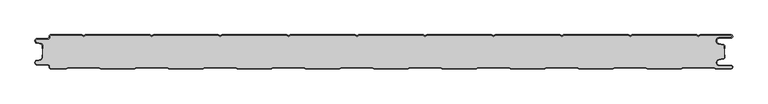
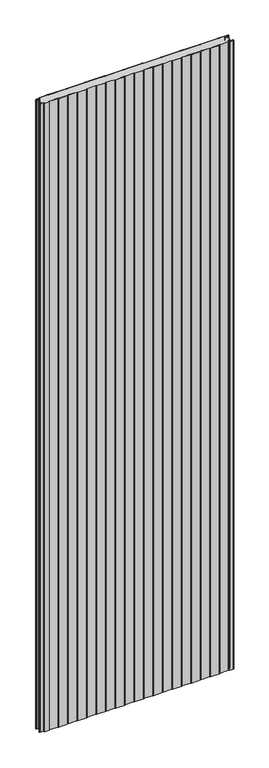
"""IFC4 building model written with IfcOpenShell, lengths in millimetres: plate geometry, PMH_Curtain-PaneL-Standard : ACH_PMH_Stone-wool-Panel_50M."""

import ifcopenshell
import ifcopenshell.guid

model = None  # the IFC model being written
_history = None  # IfcOwnerHistory: only IFC2X3 demands one
_inside = {}  # id of a spatial element -> (the spatial element, [elements in it])
_under = {}  # id of a project, library or spatial element -> (it, [spatial elements below it])
_declared = {}  # id of a project -> (the project, [libraries it declares])
_typed = {}  # id of a type object -> (the type object, [elements of that type])
_made_of = {}  # id of a material, layer set ... -> (it, [elements and type objects made of it])


def new_model(schema):
    """Start an empty IFC model of exactly this schema.

    Asked for "IFC4X3", IfcOpenShell would pick the latest addendum, in which some entities
    have other attributes; the version numbers below select the first issue.
    IFC2X3 requires an IfcOwnerHistory on every rooted entity: one is made here for all.
    """
    global model, _history
    if schema == "IFC4X3":
        model = ifcopenshell.file(schema_version=(4, 3, 0, 0))
    else:
        model = ifcopenshell.file(schema=schema)
    _inside.clear()
    _under.clear()
    _declared.clear()
    _typed.clear()
    _made_of.clear()
    _history = None
    if model.schema == "IFC2X3":
        org = make("IfcOrganization", Name="unknown")
        user = make(
            "IfcPersonAndOrganization",
            ThePerson=make("IfcPerson", FamilyName="unknown"),
            TheOrganization=org,
        )
        app = make(
            "IfcApplication",
            ApplicationDeveloper=org,
            Version="unknown",
            ApplicationFullName="unknown",
            ApplicationIdentifier="unknown",
        )
        _history = make(
            "IfcOwnerHistory",
            OwningUser=user,
            OwningApplication=app,
            ChangeAction="ADDED",
            CreationDate=0,
        )
    return model


def make(cls, **values):
    """One entity of the class cls with the attributes given. An attribute that is None is left unset."""
    return model.create_entity(
        cls, **{name: value for name, value in values.items() if value is not None}
    )


def rooted(cls, **values):
    """An entity with a GlobalId (a new one), such as an element, a storey or a relation."""
    return make(cls, GlobalId=ifcopenshell.guid.new(), OwnerHistory=_history, **values)


def si_unit(unit_type, name, prefix=None):
    """IfcSIUnit, for example si_unit("LENGTHUNIT", "METRE", prefix="MILLI")."""
    return make("IfcSIUnit", UnitType=unit_type, Prefix=prefix, Name=name)


def assignment(units):
    """IfcUnitAssignment: the units of a project."""
    return None if units is None else make("IfcUnitAssignment", Units=units)


def point(xyz):
    """IfcCartesianPoint."""
    return None if xyz is None else make("IfcCartesianPoint", Coordinates=xyz)


def direction(xyz):
    """IfcDirection."""
    return None if xyz is None else make("IfcDirection", DirectionRatios=xyz)


def frame(location, z_axis=None, x_axis=None):
    """IfcAxis2Placement3D, a coordinate frame: its origin and axes. An axis left out is left unset."""
    return make(
        "IfcAxis2Placement3D",
        Location=point(location),
        Axis=direction(z_axis),
        RefDirection=direction(x_axis),
    )


def frame_2d(location, x_axis=None):
    """IfcAxis2Placement2D, a coordinate frame in the plane: its origin and x axis."""
    return make(
        "IfcAxis2Placement2D", Location=point(location), RefDirection=direction(x_axis)
    )


def origin():
    """The frame at (0, 0, 0) with its axes left unset."""
    return frame((0.0, 0.0, 0.0))


def origin_with_axes():
    """The frame at (0, 0, 0) with the z axis (0, 0, 1) and the x axis (1, 0, 0) written out."""
    return frame((0.0, 0.0, 0.0), z_axis=(0.0, 0.0, 1.0), x_axis=(1.0, 0.0, 0.0))


def place(relative_to, where):
    """IfcLocalPlacement: puts the frame where relative to a parent placement (None: the world)."""
    return make(
        "IfcLocalPlacement", PlacementRelTo=relative_to, RelativePlacement=where
    )


def context(
    kind, dimensions, precision=None, world=None, true_north=None, identifier=None
):
    """IfcGeometricRepresentationContext, for example the 3D "Model" context."""
    return make(
        "IfcGeometricRepresentationContext",
        ContextIdentifier=identifier,
        ContextType=kind,
        CoordinateSpaceDimension=dimensions,
        Precision=precision,
        WorldCoordinateSystem=world,
        TrueNorth=true_north,
    )


def project(units=None, contexts=None):
    """IfcProject with its units and contexts."""
    return rooted(
        "IfcProject",
        Name="project",
        RepresentationContexts=contexts,
        UnitsInContext=assignment(units),
    )


def spatial(cls, under=None, at=None, **own):
    """A site, building, storey or space (cls), placed at a placement, below another one or the project."""
    s = rooted(cls, ObjectPlacement=at, **own)
    if under is not None:
        _under.setdefault(under.id(), (under, []))[1].append(s)
    return s


def polyline(points):
    """IfcPolyline through the points."""
    return make("IfcPolyline", Points=[point(p) for p in points])


def circle_curve(where, radius):
    """IfcCircle in the frame where."""
    return make("IfcCircle", Position=where, Radius=radius)


def trimmed(basis, trim1, trim2, sense, master):
    """IfcTrimmedCurve: the piece of a basis curve between two trims."""
    return make(
        "IfcTrimmedCurve",
        BasisCurve=basis,
        Trim1=trim1,
        Trim2=trim2,
        SenseAgreement=sense,
        MasterRepresentation=master,
    )


def segment(curve, same_sense, transition):
    """IfcCompositeCurveSegment."""
    return make(
        "IfcCompositeCurveSegment",
        Transition=transition,
        SameSense=same_sense,
        ParentCurve=curve,
    )


def composite_curve(segments, self_intersect=None):
    """IfcCompositeCurve: segments joined end to end."""
    return make("IfcCompositeCurve", Segments=segments, SelfIntersect=self_intersect)


def outline(outer, holes=None, kind="AREA"):
    """IfcArbitraryClosedProfileDef: a profile drawn as a closed curve; with holes, ...WithVoids."""
    if holes is None:
        return make("IfcArbitraryClosedProfileDef", ProfileType=kind, OuterCurve=outer)
    return make(
        "IfcArbitraryProfileDefWithVoids",
        ProfileType=kind,
        OuterCurve=outer,
        InnerCurves=holes,
    )


def extrude(swept, where, along, depth):
    """IfcExtrudedAreaSolid: the profile swept, set in the frame where, extruded along a direction by depth."""
    return make(
        "IfcExtrudedAreaSolid",
        SweptArea=swept,
        Position=where,
        ExtrudedDirection=direction(along),
        Depth=depth,
    )


def shape(context_of_items, identifier, shape_type, items):
    """IfcShapeRepresentation: the items that make up one representation, for example the "Body"."""
    return make(
        "IfcShapeRepresentation",
        ContextOfItems=context_of_items,
        RepresentationIdentifier=identifier,
        RepresentationType=shape_type,
        Items=items,
    )


def source(mapping_origin, context_of_items, identifier, shape_type, items):
    """IfcRepresentationMap: a shape defined once, which mapped items show again and again."""
    return make(
        "IfcRepresentationMap",
        MappingOrigin=mapping_origin,
        MappedRepresentation=shape(context_of_items, identifier, shape_type, items),
    )


def transform(
    local_origin,
    x_axis=None,
    y_axis=None,
    z_axis=None,
    scale=None,
    scale2=None,
    scale3=None,
    uniform=True,
):
    """IfcCartesianTransformationOperator3D, or its non-uniform kind. x_axis, y_axis, z_axis: its Axis1, 2, 3."""
    if uniform:
        return make(
            "IfcCartesianTransformationOperator3D",
            Axis1=direction(x_axis),
            Axis2=direction(y_axis),
            LocalOrigin=point(local_origin),
            Scale=scale,
            Axis3=direction(z_axis),
        )
    return make(
        "IfcCartesianTransformationOperator3DnonUniform",
        Axis1=direction(x_axis),
        Axis2=direction(y_axis),
        LocalOrigin=point(local_origin),
        Scale=scale,
        Axis3=direction(z_axis),
        Scale2=scale2,
        Scale3=scale3,
    )


def mapped(mapping_source, mapping_target):
    """IfcMappedItem: shows the shape of a source again, moved by a transform."""
    return make(
        "IfcMappedItem", MappingSource=mapping_source, MappingTarget=mapping_target
    )


def made_of(thing, what):
    """Note that an element or type object is made of a material, layer set ...; save() writes the relation."""
    if what is not None:
        _made_of.setdefault(what.id(), (what, []))[1].append(thing)
    return thing


def element(
    cls,
    number,
    at=None,
    inside=None,
    cuts=None,
    type_object=None,
    material=None,
    context=None,
    identifier="Body",
    shape_type=None,
    held_by="IfcProductDefinitionShape",
    body=None,
    shapes=None,
    **own,
):
    """One element of the class cls, such as IfcWall. Its Tag is "e" and its number.

    at: its placement. inside: the storey or other place that contains it. cuts: it is an
    opening in that element (IfcRelVoidsElement). A single representation is given by context,
    identifier, shape_type and body (its items); several are given by shapes. held_by: the class
    of the entity that holds the representations. save() writes the other relations.
    """
    e = rooted(cls, Tag="e%d" % number, ObjectPlacement=at, **own)
    if body is not None:
        shapes = [shape(context, identifier, shape_type, body)]
    if shapes is not None:
        e.Representation = make(held_by, Representations=shapes)
    if inside is not None:
        _inside.setdefault(inside.id(), (inside, []))[1].append(e)
    if cuts is not None:
        rooted(
            "IfcRelVoidsElement", RelatingBuildingElement=cuts, RelatedOpeningElement=e
        )
    if type_object is not None:
        _typed.setdefault(type_object.id(), (type_object, []))[1].append(e)
    return made_of(e, material)


def aggregate(whole, parts):
    """IfcRelAggregates: a whole, such as a stair, and the parts it consists of."""
    return rooted("IfcRelAggregates", RelatingObject=whole, RelatedObjects=parts)


def save(model, path):
    """Write the relations noted so far, then the file.

    IfcRelAggregates (storeys below a building ...), IfcRelContainedInSpatialStructure (elements
    in a storey), IfcRelDefinesByType, IfcRelAssociatesMaterial and IfcRelDeclares: one each for
    every whole, place, type object, material and project.
    """
    for whole, parts in _under.values():
        aggregate(whole, parts)
    for where, things in _inside.values():
        rooted(
            "IfcRelContainedInSpatialStructure",
            RelatedElements=things,
            RelatingStructure=where,
        )
    for kind, things in _typed.values():
        rooted("IfcRelDefinesByType", RelatedObjects=things, RelatingType=kind)
    for what, things in _made_of.values():
        rooted("IfcRelAssociatesMaterial", RelatedObjects=things, RelatingMaterial=what)
    for by, libraries in _declared.values():
        rooted("IfcRelDeclares", RelatingContext=by, RelatedDefinitions=libraries)
    model.write(path)


def plate_058e40cf(model_context):
    return source(origin(), model_context, "Body", "SweptSolid", [
        extrude(outline(composite_curve([segment(trimmed(circle_curve(frame_2d((-502.0, -15.878557)), 2.0), [point((-500.0, -15.878557))], [point((-501.5500978, -13.9298169))], True, "CARTESIAN"), True, "CONTINUOUS"), segment(polyline([(-501.5500978, -13.9298169), (-507.7098239, -12.507732)]), True, "CONTINUOUS"), segment(trimmed(circle_curve(frame_2d((-506.9, -9.0)), 3.6), [point((-507.7098239, -12.507732))], [point((-506.9, -5.4))], False, "CARTESIAN"), True, "CONTINUOUS"), segment(polyline([(-506.9, -5.4), (-491.4, -5.4)]), True, "CONTINUOUS"), segment(trimmed(circle_curve(frame_2d((-491.4, -3.4)), 2.0), [point((-491.4, -5.4))], [point((-489.4, -3.4))], True, "CARTESIAN"), True, "CONTINUOUS"), segment(polyline([(-489.4, -3.4), (-489.4, -2.0)]), True, "CONTINUOUS"), segment(trimmed(circle_curve(frame_2d((-487.4, -2.0)), 2.0), [point((-489.4, -2.0))], [point((-487.4, 0.0))], False, "CARTESIAN"), True, "CONTINUOUS"), segment(polyline([(-487.4, 0.0), (-442.0999995, 0.0), (-439.4, -1.5588455), (-436.7000005, 0.0), (-342.0999995, 0.0), (-339.4, -1.5588455), (-336.7000005, 0.0), (-242.0999995, 0.0), (-239.4, -1.5588455), (-236.7000005, 0.0), (-142.0999995, 0.0), (-139.4, -1.5588455), (-136.7000005, 0.0), (-42.0999995, 0.0), (-39.4, -1.5588455), (-36.7000005, 0.0), (57.9000005, 0.0), (60.6, -1.5588455), (63.2999995, 0.0), (157.9000005, 0.0), (160.6, -1.5588455), (163.2999995, 0.0), (257.9000005, 0.0), (260.6, -1.5588455), (263.2999995, 0.0), (357.9000005, 0.0), (360.6, -1.5588455), (363.2999995, 0.0), (457.9000005, 0.0), (460.6, -1.5588455), (463.2999995, 0.0), (508.1, 0.0)]), True, "CONTINUOUS"), segment(trimmed(circle_curve(frame_2d((508.1, -2.5)), 2.5), [point((508.1, 0.0))], [point((508.1, -5.0))], False, "CARTESIAN"), True, "CONTINUOUS"), segment(polyline([(508.1, -5.0), (491.1, -5.0)]), True, "CONTINUOUS"), segment(trimmed(circle_curve(frame_2d((491.1, -9.0)), 4.0), [point((491.1, -5.0))], [point((490.405407, -12.939231))], True, "CARTESIAN"), True, "CONTINUOUS"), segment(polyline([(490.405407, -12.939231), (496.8514855, -14.0758491)]), True, "CONTINUOUS"), segment(trimmed(circle_curve(frame_2d((496.4, -16.6363492)), 2.6), [point((496.8514855, -14.0758491))], [point((499.0, -16.6363492))], False, "CARTESIAN"), True, "CONTINUOUS"), segment(polyline([(499.0, -16.6363492), (499.0, -20.0), (498.2, -20.0), (498.2, -16.6363492)]), True, "CONTINUOUS"), segment(trimmed(circle_curve(frame_2d((496.4, -16.6363492)), 1.8), [point((498.2, -16.6363492))], [point((496.7125669, -14.8636953))], True, "CARTESIAN"), True, "CONTINUOUS"), segment(polyline([(496.7125669, -14.8636953), (490.2664884, -13.7270772)]), True, "CONTINUOUS"), segment(trimmed(circle_curve(frame_2d((491.1, -9.0)), 4.8), [point((490.2664884, -13.7270772))], [point((491.1, -4.2))], False, "CARTESIAN"), True, "CONTINUOUS"), segment(polyline([(491.1, -4.2), (508.1, -4.2)]), True, "CONTINUOUS"), segment(trimmed(circle_curve(frame_2d((508.1, -2.5)), 1.7), [point((508.1, -4.2))], [point((508.1, -0.8))], True, "CARTESIAN"), True, "CONTINUOUS"), segment(polyline([(508.1, -0.8), (463.5143588, -0.8), (460.6, -2.482606), (457.6856412, -0.8), (363.5143588, -0.8), (360.6, -2.482606), (357.6856412, -0.8), (263.5143588, -0.8), (260.6, -2.482606), (257.6856412, -0.8), (163.5143588, -0.8), (160.6, -2.482606), (157.6856412, -0.8), (63.5143588, -0.8), (60.6, -2.482606), (57.6856412, -0.8), (-36.4856412, -0.8), (-39.4, -2.482606), (-42.3143588, -0.8), (-136.4856412, -0.8), (-139.4, -2.482606), (-142.3143588, -0.8), (-236.4856412, -0.8), (-239.4, -2.482606), (-242.3143588, -0.8), (-336.4856412, -0.8), (-339.4, -2.482606), (-342.3143588, -0.8), (-436.4856412, -0.8), (-439.4, -2.482606), (-442.3143588, -0.8), (-487.4, -0.8)]), True, "CONTINUOUS"), segment(trimmed(circle_curve(frame_2d((-487.4, -2.0)), 1.2), [point((-487.4, -0.8))], [point((-488.6, -2.0))], True, "CARTESIAN"), True, "CONTINUOUS"), segment(polyline([(-488.6, -2.0), (-488.6, -3.4)]), True, "CONTINUOUS"), segment(trimmed(circle_curve(frame_2d((-491.4, -3.4)), 2.8), [point((-488.6, -3.4))], [point((-491.4, -6.2))], False, "CARTESIAN"), True, "CONTINUOUS"), segment(polyline([(-491.4, -6.2), (-506.9, -6.2)]), True, "CONTINUOUS"), segment(trimmed(circle_curve(frame_2d((-506.9, -9.0)), 2.8), [point((-506.9, -6.2))], [point((-507.529863, -11.7282362))], True, "CARTESIAN"), True, "CONTINUOUS"), segment(polyline([(-507.529863, -11.7282362), (-501.370137, -13.150321)]), True, "CONTINUOUS"), segment(trimmed(circle_curve(frame_2d((-502.0, -15.878557)), 2.8), [point((-501.370137, -13.150321))], [point((-499.2, -15.878557))], False, "CARTESIAN"), True, "CONTINUOUS"), segment(polyline([(-499.2, -15.878557), (-499.2, -20.0), (-500.0, -20.0), (-500.0, -15.878557)]), True, "CONTINUOUS")], self_intersect=False)), origin_with_axes(), (0.0, 0.0, 1.0), 3500.0),
        extrude(outline(composite_curve([segment(polyline([(-499.2, -34.121443), (-499.2, -15.8785573)]), True, "CONTINUOUS"), segment(trimmed(circle_curve(frame_2d((-502.0, -15.8785573)), 2.8), [point((-499.2, -15.8785573))], [point((-501.370137, -13.1503212))], True, "CARTESIAN"), True, "CONTINUOUS"), segment(polyline([(-501.370137, -13.1503212), (-507.5298631, -11.7282362)]), True, "CONTINUOUS"), segment(trimmed(circle_curve(frame_2d((-506.9, -9.0)), 2.8), [point((-507.5298631, -11.7282362))], [point((-506.9, -6.2))], False, "CARTESIAN"), True, "CONTINUOUS"), segment(polyline([(-506.9, -6.2), (-491.4000001, -6.2)]), True, "CONTINUOUS"), segment(trimmed(circle_curve(frame_2d((-491.4000001, -3.4)), 2.8), [point((-491.4000001, -6.2))], [point((-488.6000001, -3.4))], True, "CARTESIAN"), True, "CONTINUOUS"), segment(polyline([(-488.6000001, -3.4), (-488.6000001, -2.0)]), True, "CONTINUOUS"), segment(trimmed(circle_curve(frame_2d((-487.4000001, -2.0)), 1.2), [point((-488.6000001, -2.0))], [point((-487.4000001, -0.8))], False, "CARTESIAN"), True, "CONTINUOUS"), segment(polyline([(-487.4000001, -0.8), (-442.3143589, -0.8), (-439.4000001, -2.482606), (-436.4856412, -0.8), (-342.3143589, -0.8), (-339.4000001, -2.482606), (-336.4856412, -0.8), (-242.3143589, -0.8), (-239.4000001, -2.482606), (-236.4856412, -0.8), (-142.3143589, -0.8), (-139.4000001, -2.482606), (-136.4856412, -0.8), (-42.3143589, -0.8), (-39.4000001, -2.482606), (-36.4856412, -0.8), (57.6856411, -0.8), (60.5999999, -2.482606), (63.5143588, -0.8), (157.6856411, -0.8), (160.5999999, -2.482606), (163.5143588, -0.8), (257.6856411, -0.8), (260.5999999, -2.482606), (263.5143588, -0.8), (357.6856411, -0.8), (360.5999999, -2.482606), (363.5143588, -0.8), (457.6856411, -0.8), (460.5999999, -2.482606), (463.5143587, -0.8), (508.1, -0.8)]), True, "CONTINUOUS"), segment(trimmed(circle_curve(frame_2d((508.1, -2.5)), 1.7), [point((508.1, -0.8))], [point((508.1, -4.2))], False, "CARTESIAN"), True, "CONTINUOUS"), segment(polyline([(508.1, -4.2), (491.1, -4.2)]), True, "CONTINUOUS"), segment(trimmed(circle_curve(frame_2d((491.1, -9.0)), 4.8), [point((491.1, -4.2))], [point((490.2664883, -13.7270771))], True, "CARTESIAN"), True, "CONTINUOUS"), segment(polyline([(490.2664883, -13.7270771), (496.7125668, -14.8636953)]), True, "CONTINUOUS"), segment(trimmed(circle_curve(frame_2d((496.4, -16.6363492)), 1.8), [point((496.7125668, -14.8636953))], [point((498.2, -16.6363492))], False, "CARTESIAN"), True, "CONTINUOUS"), segment(polyline([(498.2, -16.6363492), (498.2, -33.363652)]), True, "CONTINUOUS"), segment(trimmed(circle_curve(frame_2d((496.4, -33.363652)), 1.8), [point((498.2, -33.363652))], [point((496.7125666, -35.1363059))], False, "CARTESIAN"), True, "CONTINUOUS"), segment(polyline([(496.7125666, -35.1363059), (490.266489, -36.272923)]), True, "CONTINUOUS"), segment(trimmed(circle_curve(frame_2d((491.1, -41.0000002)), 4.7999999), [point((490.266489, -36.272923))], [point((491.1, -45.8000001))], True, "CARTESIAN"), True, "CONTINUOUS"), segment(polyline([(491.1, -45.8000001), (508.1, -45.8000001)]), True, "CONTINUOUS"), segment(trimmed(circle_curve(frame_2d((508.1, -47.5)), 1.7), [point((508.1, -45.8000001))], [point((508.1, -49.2))], False, "CARTESIAN"), True, "CONTINUOUS"), segment(polyline([(508.1, -49.2), (485.8105122, -49.2), (483.2124346, -47.7), (437.9837184, -47.7), (435.3856408, -49.2), (385.8105122, -49.2), (383.2124346, -47.7), (337.9837184, -47.7), (335.3856408, -49.2), (285.8105122, -49.2), (283.2124346, -47.7), (237.9837184, -47.7), (235.3856408, -49.2), (185.8105122, -49.2), (183.2124346, -47.7), (137.9837184, -47.7), (135.3856408, -49.2), (85.8105122, -49.2), (83.2124346, -47.7), (37.9837184, -47.7), (35.3856408, -49.2), (-14.1894878, -49.2), (-16.7875654, -47.7), (-62.0162816, -47.7), (-64.6143592, -49.2), (-114.1894878, -49.2), (-116.7875654, -47.7), (-162.0162816, -47.7), (-164.6143592, -49.2), (-214.1894878, -49.2), (-216.7875654, -47.7), (-262.0162816, -47.7), (-264.6143592, -49.2), (-314.1894878, -49.2), (-316.7875654, -47.7), (-362.0162816, -47.7), (-364.6143592, -49.2), (-414.1894878, -49.2), (-416.7875654, -47.7), (-462.0162816, -47.7), (-464.6143592, -49.2), (-487.4, -49.2)]), True, "CONTINUOUS"), segment(trimmed(circle_curve(frame_2d((-487.4, -48.0)), 1.2), [point((-487.4, -49.2))], [point((-488.6, -48.0))], False, "CARTESIAN"), True, "CONTINUOUS"), segment(polyline([(-488.6, -48.0), (-488.6, -46.5999998)]), True, "CONTINUOUS"), segment(trimmed(circle_curve(frame_2d((-491.4, -46.5999998)), 2.8), [point((-488.6, -46.5999998))], [point((-491.4, -43.7999998))], True, "CARTESIAN"), True, "CONTINUOUS"), segment(polyline([(-491.4, -43.7999998), (-506.9, -43.7999998)]), True, "CONTINUOUS"), segment(trimmed(circle_curve(frame_2d((-506.9, -41.0)), 2.7999998), [point((-506.9, -43.7999998))], [point((-507.529863, -38.271764))], False, "CARTESIAN"), True, "CONTINUOUS"), segment(polyline([(-507.529863, -38.271764), (-501.370137, -36.8496792)]), True, "CONTINUOUS"), segment(trimmed(circle_curve(frame_2d((-502.0, -34.121443)), 2.8), [point((-501.370137, -36.8496792))], [point((-499.2, -34.121443))], True, "CARTESIAN"), True, "CONTINUOUS")], self_intersect=False)), origin_with_axes(), (0.0, 0.0, 1.0), 3500.0),
        extrude(outline(composite_curve([segment(trimmed(circle_curve(frame_2d((-487.4, -48.0)), 2.0), [point((-487.4, -50.0))], [point((-489.4, -48.0))], False, "CARTESIAN"), True, "CONTINUOUS"), segment(polyline([(-489.4, -48.0), (-489.4, -46.6)]), True, "CONTINUOUS"), segment(trimmed(circle_curve(frame_2d((-491.4, -46.6)), 2.0), [point((-489.4, -46.6))], [point((-491.4, -44.6))], True, "CARTESIAN"), True, "CONTINUOUS"), segment(polyline([(-491.4, -44.6), (-506.9, -44.6)]), True, "CONTINUOUS"), segment(trimmed(circle_curve(frame_2d((-506.9, -41.0)), 3.6), [point((-506.9, -44.6))], [point((-507.7098239, -37.4922678))], False, "CARTESIAN"), True, "CONTINUOUS"), segment(polyline([(-507.7098239, -37.4922678), (-501.5500979, -36.070183)]), True, "CONTINUOUS"), segment(trimmed(circle_curve(frame_2d((-502.0, -34.121443)), 2.0), [point((-501.5500979, -36.070183))], [point((-500.0, -34.121443))], True, "CARTESIAN"), True, "CONTINUOUS"), segment(polyline([(-500.0, -34.121443), (-500.0, -30.0), (-499.2, -30.0), (-499.2, -34.121443)]), True, "CONTINUOUS"), segment(trimmed(circle_curve(frame_2d((-502.0, -34.121443)), 2.8), [point((-499.2, -34.121443))], [point((-501.370137, -36.8496792))], False, "CARTESIAN"), True, "CONTINUOUS"), segment(polyline([(-501.370137, -36.8496792), (-507.529863, -38.271764)]), True, "CONTINUOUS"), segment(trimmed(circle_curve(frame_2d((-506.9, -41.0)), 2.8), [point((-507.529863, -38.271764))], [point((-506.9, -43.8))], True, "CARTESIAN"), True, "CONTINUOUS"), segment(polyline([(-506.9, -43.8), (-491.4, -43.8)]), True, "CONTINUOUS"), segment(trimmed(circle_curve(frame_2d((-491.4, -46.6)), 2.8), [point((-491.4, -43.8))], [point((-488.6, -46.6))], False, "CARTESIAN"), True, "CONTINUOUS"), segment(polyline([(-488.6, -46.6), (-488.6, -48.0)]), True, "CONTINUOUS"), segment(trimmed(circle_curve(frame_2d((-487.4, -48.0)), 1.2), [point((-488.6, -48.0))], [point((-487.4, -49.2))], True, "CARTESIAN"), True, "CONTINUOUS"), segment(polyline([(-487.4, -49.2), (-464.6143592, -49.2), (-462.0162816, -47.7), (-416.7875654, -47.7), (-414.1894878, -49.2), (-364.6143592, -49.2), (-362.0162816, -47.7), (-316.7875654, -47.7), (-314.1894878, -49.2), (-264.6143592, -49.2), (-262.0162816, -47.7), (-216.7875654, -47.7), (-214.1894878, -49.2), (-164.6143592, -49.2), (-162.0162816, -47.7), (-116.7875654, -47.7), (-114.1894878, -49.2), (-64.6143592, -49.2), (-62.0162816, -47.7), (-16.7875654, -47.7), (-14.1894878, -49.2), (35.3856408, -49.2), (37.9837184, -47.7), (83.2124346, -47.7), (85.8105122, -49.2), (135.3856408, -49.2), (137.9837184, -47.7), (183.2124346, -47.7), (185.8105122, -49.2), (235.3856408, -49.2), (237.9837184, -47.7), (283.2124346, -47.7), (285.8105122, -49.2), (335.3856408, -49.2), (337.9837184, -47.7), (383.2124346, -47.7), (385.8105122, -49.2), (435.3856408, -49.2), (437.9837184, -47.7), (483.2124346, -47.7), (485.8105122, -49.2), (508.1, -49.2)]), True, "CONTINUOUS"), segment(trimmed(circle_curve(frame_2d((508.1, -47.5)), 1.7), [point((508.1, -49.2))], [point((508.1, -45.8))], True, "CARTESIAN"), True, "CONTINUOUS"), segment(polyline([(508.1, -45.8), (491.1, -45.8)]), True, "CONTINUOUS"), segment(trimmed(circle_curve(frame_2d((491.1, -41.0)), 4.8), [point((491.1, -45.8))], [point((490.266489, -36.2729227))], False, "CARTESIAN"), True, "CONTINUOUS"), segment(polyline([(490.266489, -36.2729227), (496.7125666, -35.1363058)]), True, "CONTINUOUS"), segment(trimmed(circle_curve(frame_2d((496.4, -33.363652)), 1.8), [point((496.7125666, -35.1363058))], [point((498.2, -33.363652))], True, "CARTESIAN"), True, "CONTINUOUS"), segment(polyline([(498.2, -33.363652), (498.2, -30.0), (499.0, -30.0), (499.0, -33.363652)]), True, "CONTINUOUS"), segment(trimmed(circle_curve(frame_2d((496.4, -33.363652)), 2.6), [point((499.0, -33.363652))], [point((496.8514851, -35.9241522))], False, "CARTESIAN"), True, "CONTINUOUS"), segment(polyline([(496.8514851, -35.9241522), (490.4054075, -37.0607691)]), True, "CONTINUOUS"), segment(trimmed(circle_curve(frame_2d((491.1, -41.0)), 4.0), [point((490.4054075, -37.0607691))], [point((491.1, -45.0))], True, "CARTESIAN"), True, "CONTINUOUS"), segment(polyline([(491.1, -45.0), (508.1, -45.0)]), True, "CONTINUOUS"), segment(trimmed(circle_curve(frame_2d((508.1, -47.5)), 2.5), [point((508.1, -45.0))], [point((508.1, -50.0))], False, "CARTESIAN"), True, "CONTINUOUS"), segment(polyline([(508.1, -50.0), (485.5961529, -50.0), (482.9980753, -48.5), (438.1980777, -48.5), (435.6000001, -50.0), (385.5961529, -50.0), (382.9980753, -48.5), (338.1980777, -48.5), (335.6000001, -50.0), (285.5961529, -50.0), (282.9980753, -48.5), (238.1980777, -48.5), (235.6000001, -50.0), (185.5961529, -50.0), (182.9980753, -48.5), (138.1980777, -48.5), (135.6000001, -50.0), (85.5961529, -50.0), (82.9980753, -48.5), (38.1980777, -48.5), (35.6000001, -50.0), (-14.4038471, -50.0), (-17.0019247, -48.5), (-61.8019223, -48.5), (-64.3999999, -50.0), (-114.4038471, -50.0), (-117.0019247, -48.5), (-161.8019223, -48.5), (-164.3999999, -50.0), (-214.4038471, -50.0), (-217.0019247, -48.5), (-261.8019223, -48.5), (-264.3999999, -50.0), (-314.4038471, -50.0), (-317.0019247, -48.5), (-361.8019223, -48.5), (-364.3999999, -50.0), (-414.4038471, -50.0), (-417.0019247, -48.5), (-461.8019223, -48.5), (-464.3999999, -50.0), (-487.4, -50.0)]), True, "CONTINUOUS")], self_intersect=False)), origin_with_axes(), (0.0, 0.0, 1.0), 3500.0),
    ])


if __name__ == "__main__":
    model = new_model("IFC4")
    model_context = context("Model", 3, world=origin())
    ifc_project = project(units=[si_unit("LENGTHUNIT", "METRE", prefix="MILLI")], contexts=[model_context])
    site = spatial("IfcSite", under=ifc_project)
    building = spatial("IfcBuilding", under=site)
    placement = place(None, origin())
    plate_shape = plate_058e40cf(model_context)
    element("IfcPlate", 1, ObjectType="PMH_Curtain-PaneL-Standard : ACH_PMH_Stone-wool-Panel_50M", at=placement, inside=building, context=model_context, shape_type="MappedRepresentation", body=[
        mapped(plate_shape, transform((0.0, 0.0, 0.0), x_axis=(1.0, 0.0, 0.0), y_axis=(0.0, 1.0, 0.0), z_axis=(0.0, 0.0, 1.0))),
    ])
    save(model, "model.ifc")
